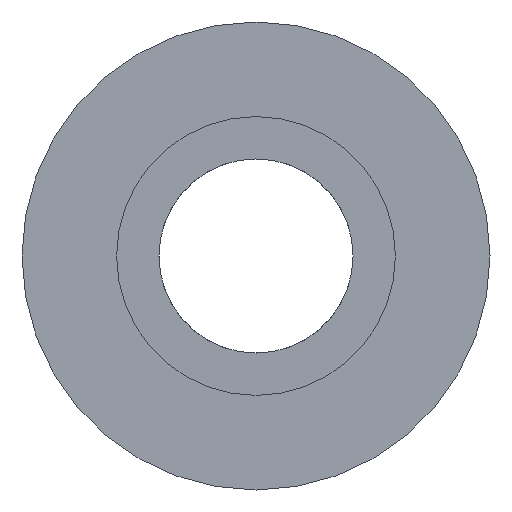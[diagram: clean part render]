
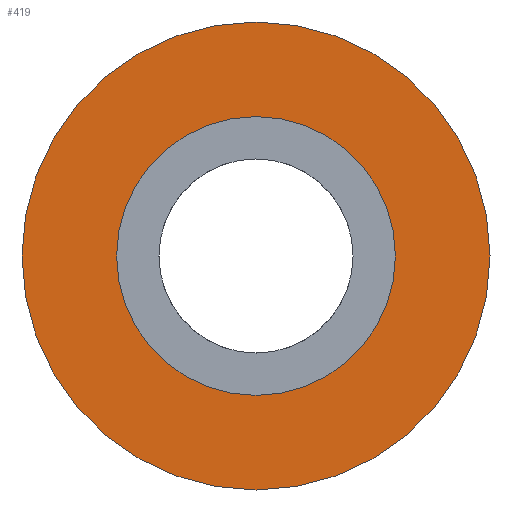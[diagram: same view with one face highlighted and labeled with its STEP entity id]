
A CAD part, left-side view. The second image highlights one B-rep face of the part: STEP entity #419.
In plain terms, the highlighted planar face has unit normal (-1, 0, 0).
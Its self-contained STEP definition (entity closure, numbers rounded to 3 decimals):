
#15=FACE_BOUND($,#96,.T.);
#45=CIRCLE($,#463,1.422);
#47=CIRCLE($,#466,2.388);
#70=FACE_OUTER_BOUND($,#95,.T.);
#95=EDGE_LOOP($,(#349));
#96=EDGE_LOOP($,(#350));
#207=VERTEX_POINT($,#710);
#209=VERTEX_POINT($,#715);
#262=EDGE_CURVE($,#207,#207,#45,.T.);
#264=EDGE_CURVE($,#209,#209,#47,.T.);
#349=ORIENTED_EDGE($,*,*,#264,.F.);
#350=ORIENTED_EDGE($,*,*,#262,.T.);
#397=PLANE($,#465);
#419=ADVANCED_FACE($,(#70,#15),#397,.T.);
#463=AXIS2_PLACEMENT_3D($,#711,#579,#580);
#465=AXIS2_PLACEMENT_3D($,#714,#583,#584);
#466=AXIS2_PLACEMENT_3D($,#716,#585,#586);
#579=DIRECTION('center_axis',(1.,0.,0.));
#580=DIRECTION('ref_axis',(0.,1.,0.));
#583=DIRECTION('center_axis',(-1.,0.,0.));
#584=DIRECTION('ref_axis',(0.,0.,1.));
#585=DIRECTION('center_axis',(1.,0.,0.));
#586=DIRECTION('ref_axis',(0.,1.,0.));
#710=CARTESIAN_POINT('',(1.981,1.422,0.));
#711=CARTESIAN_POINT('Origin',(1.981,0.,0.));
#714=CARTESIAN_POINT('Origin',(1.981,1.905,0.));
#715=CARTESIAN_POINT('',(1.981,2.388,0.));
#716=CARTESIAN_POINT('Origin',(1.981,0.,0.));
